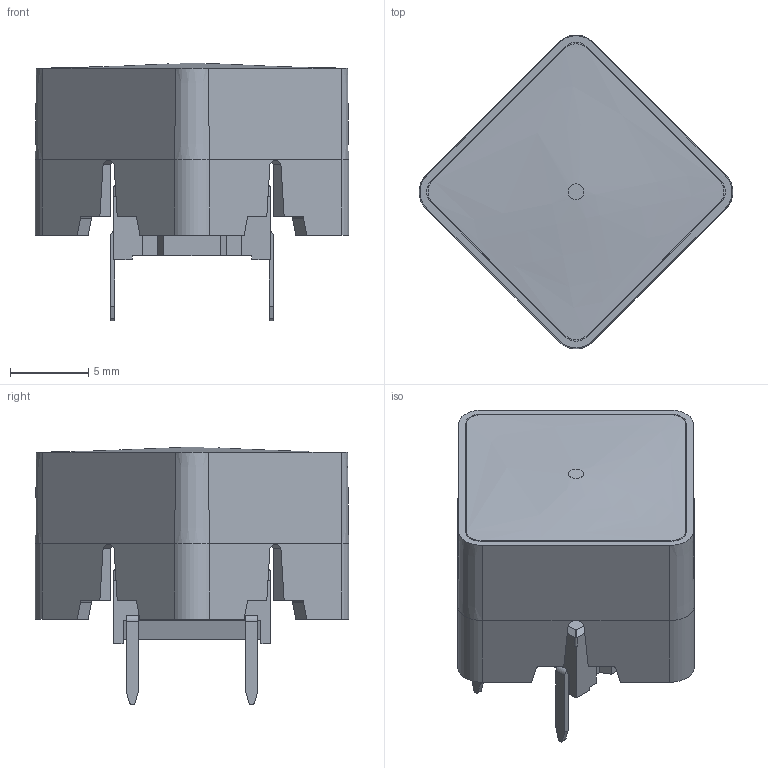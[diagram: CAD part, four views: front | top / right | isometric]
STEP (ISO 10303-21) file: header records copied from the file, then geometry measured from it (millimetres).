
FILE_DESCRIPTION((''),'2;1');
FILE_NAME('C:\Users\fd.MEC-AS\Desktop\Dan\31012013\5ETH9+1YS0616.stp','2013-01-31T13:49:40',('fd'),(''),'Autodesk Inventor 2012','Autodesk Inventor 2012','');
FILE_SCHEMA(('AUTOMOTIVE_DESIGN { 1 0 10303 214 1 1 1 1 }'));
Length unit declared in the file: millimetre
Products named in the file (5): 5ET+1YS; 5ETH9; 1YS; 1YS solid; 29345 Linse
Assembly tree (4 placements, depth 3):
  5ET+1YS
    5ETH9
    1YS
      1YS solid
      29345 Linse
Bounding box: 20.01 x 20.01 x 16.43 mm (x, y, z)
Volume: 1813.9 mm3; surface area: 2785.3 mm2
Topology: 3 solids, 3 shells, 543 faces, 1584 edges, 1044 vertices
Faces by surface type: plane 350, cylinder 133, bspline 32, cone 24, torus 4
Entity records: 19005 total; most frequent: CARTESIAN_POINT 4400, ORIENTED_EDGE 3168, DIRECTION 2889, EDGE_CURVE 1584, VECTOR 1123, LINE 1123, VERTEX_POINT 1044, AXIS2_PLACEMENT_3D 883
